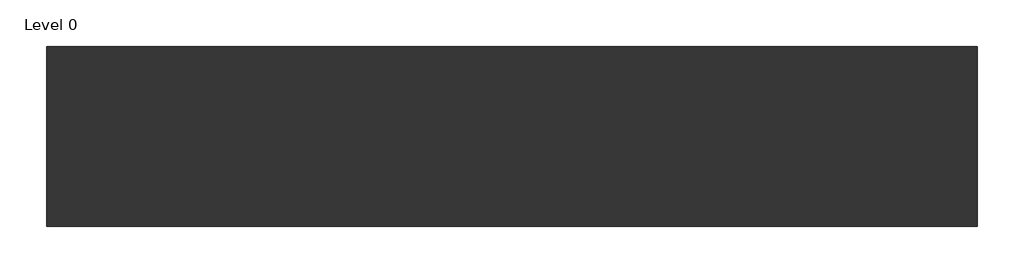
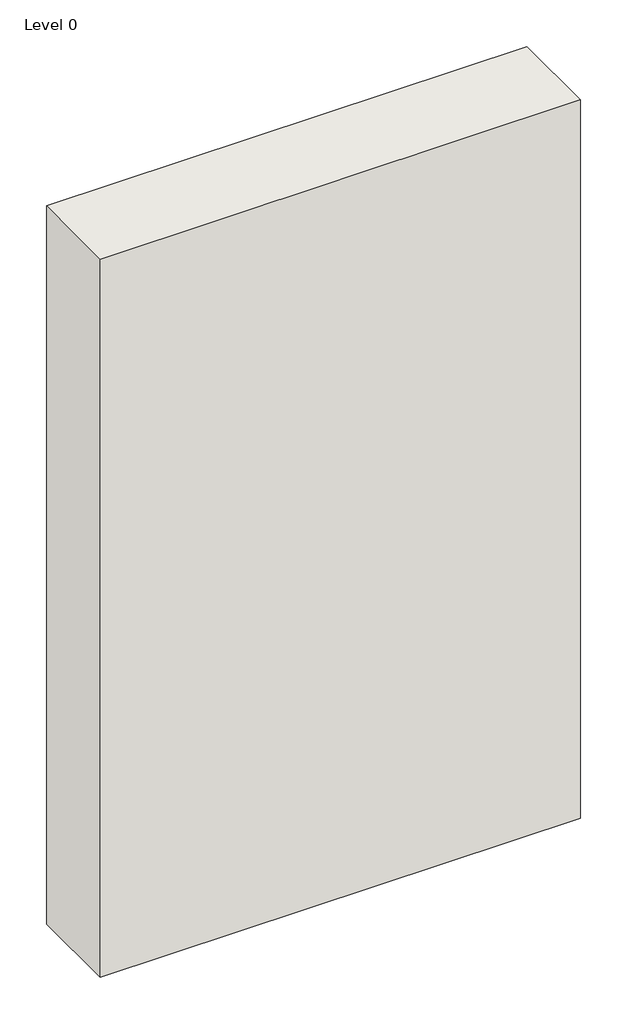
# One storey: 1 wall.
"""IFC4 building model written with IfcOpenShell, lengths in millimetres."""

from ifc_helpers import new_model, si_unit, origin, origin_with_axes, place, context, project, spatial, polyline, outline, extrude, element, save

model = new_model("IFC4")

# Units and contexts
model_context = context("Model", 3, world=origin())
ifc_project = project(units=[si_unit("LENGTHUNIT", "METRE", prefix="MILLI")], contexts=[model_context])

# Site, building, storey
site = spatial("IfcSite", under=ifc_project)
building = spatial("IfcBuilding", under=site)
storey = spatial("IfcBuildingStorey", under=building, Name="Level 0", Elevation=0.0)

# Wall
placement = place(None, origin())
element("IfcWall", 1, ObjectType="A326018(a) - GypWall Audio", at=placement, inside=storey, context=model_context, shape_type="SweptSolid", body=[
    extrude(outline(polyline([(1155.997948, 255.2669953), (-1944.002052, 255.2669953), (-1944.002052, 855.2669953), (1155.997948, 855.2669953), (1155.997948, 255.2669953)])), origin_with_axes(), (0.0, 0.0, 1.0), 4900.0),
])

save(model, "model.ifc")
